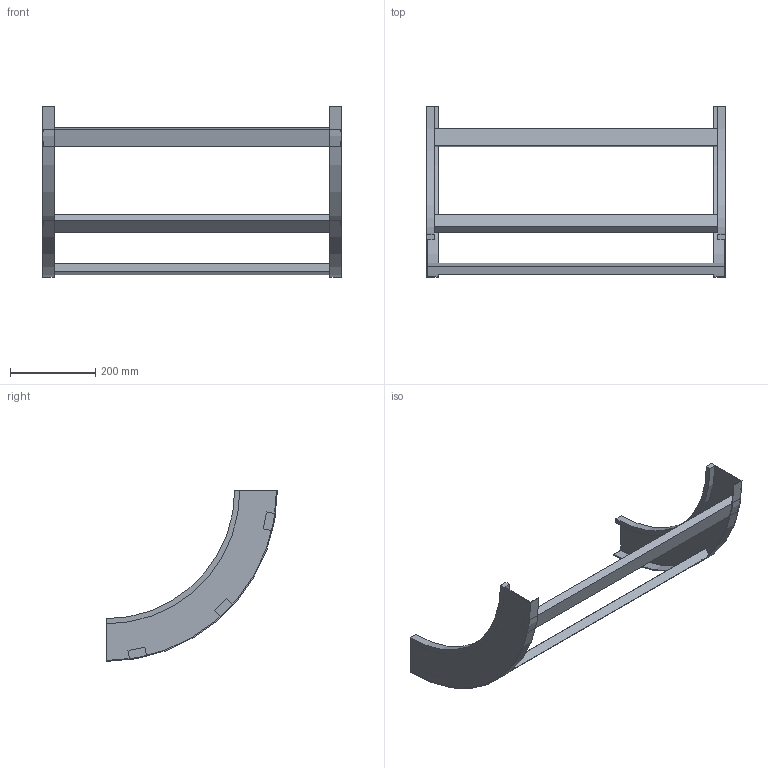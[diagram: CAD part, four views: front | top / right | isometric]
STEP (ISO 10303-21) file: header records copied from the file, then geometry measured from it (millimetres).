
FILE_DESCRIPTION (( 'STEP AP214' ), '1' );
FILE_NAME ('B2X30B3D700XX.step', '2025-03-20T10:20:25', ( '' ), ( '' ), 'SwSTEP 2.0', 'SolidWorks 2023', '' );
FILE_SCHEMA (( 'AUTOMOTIVE_DESIGN' ));
Length unit declared in the file: millimetre
Products named in the file (3): TRAVERSINO_700; B2X30B3D700XX; B2_LONGH.SALITA_90°_H100_R300
Assembly tree (5 placements, depth 2):
  B2X30B3D700XX
    B2_LONGH.SALITA_90°_H100_R300  x2
    TRAVERSINO_700  x3
Bounding box: 700 x 400 x 400 mm (x, y, z)
Volume: 2158441.1 mm3; surface area: 577023 mm2
Topology: 5 solids, 5 shells, 38 faces, 84 edges, 56 vertices
Faces by surface type: plane 30, cylinder 8
Entity records: 560 total; most frequent: DIRECTION 92, CARTESIAN_POINT 84, ORIENTED_EDGE 72, EDGE_CURVE 36, AXIS2_PLACEMENT_3D 32, VECTOR 28, LINE 28, VERTEX_POINT 24
